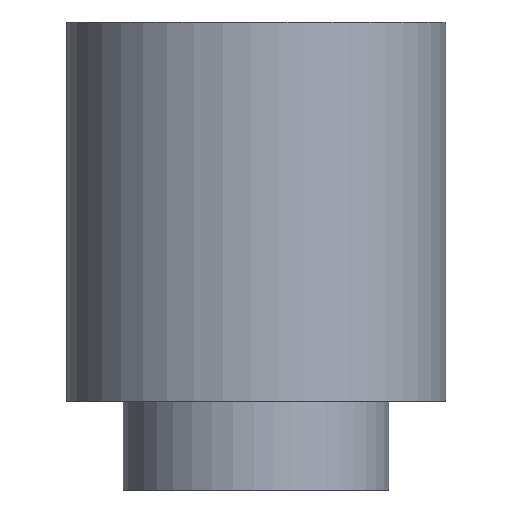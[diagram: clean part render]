
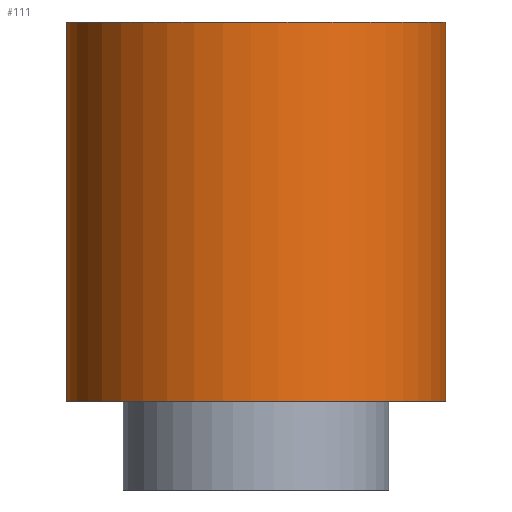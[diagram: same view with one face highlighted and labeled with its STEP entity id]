
A CAD part, front view. The second image highlights one B-rep face of the part: STEP entity #111.
In plain terms, the highlighted free-form (B-spline) face has degree [2, 1] with [7, 2] control points.
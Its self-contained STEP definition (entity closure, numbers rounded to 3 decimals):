
#92 = EDGE_CURVE('',#93,#93,#95,.T.);
#93 = VERTEX_POINT('',#94);
#94 = CARTESIAN_POINT('',(-3.,0.,0.));
#95 = ( BOUNDED_CURVE() B_SPLINE_CURVE(2,(#96,#97,#98,#99,#100,#101,#102
),.UNSPECIFIED.,.T.,.F.) B_SPLINE_CURVE_WITH_KNOTS((1,2,2,2,2,1),(
    -2.094,0.,2.094,4.189,6.283,
8.378),.UNSPECIFIED.) CURVE() GEOMETRIC_REPRESENTATION_ITEM() 
RATIONAL_B_SPLINE_CURVE((1.,0.5,1.,0.5,1.,0.5,1.)) REPRESENTATION_ITEM(
  '') );
#96 = CARTESIAN_POINT('',(-3.,0.,0.));
#97 = CARTESIAN_POINT('',(-3.,5.196,0.));
#98 = CARTESIAN_POINT('',(1.5,2.598,0.));
#99 = CARTESIAN_POINT('',(6.,0.,0.));
#100 = CARTESIAN_POINT('',(1.5,-2.598,0.));
#101 = CARTESIAN_POINT('',(-3.,-5.196,0.));
#102 = CARTESIAN_POINT('',(-3.,0.,0.));
#111 = ADVANCED_FACE('',(#112),#133,.T.);
#112 = FACE_BOUND('',#113,.T.);
#113 = EDGE_LOOP('',(#114,#126,#131,#132));
#114 = ORIENTED_EDGE('',*,*,#115,.T.);
#115 = EDGE_CURVE('',#116,#116,#118,.T.);
#116 = VERTEX_POINT('',#117);
#117 = CARTESIAN_POINT('',(-3.,0.,6.));
#118 = ( BOUNDED_CURVE() B_SPLINE_CURVE(2,(#119,#120,#121,#122,#123,#124
,#125),.UNSPECIFIED.,.T.,.F.) B_SPLINE_CURVE_WITH_KNOTS((1,2,2,2,2,1),(
    -2.094,0.,2.094,4.189,6.283,
8.378),.UNSPECIFIED.) CURVE() GEOMETRIC_REPRESENTATION_ITEM() 
RATIONAL_B_SPLINE_CURVE((1.,0.5,1.,0.5,1.,0.5,1.)) REPRESENTATION_ITEM(
  '') );
#119 = CARTESIAN_POINT('',(-3.,0.,6.));
#120 = CARTESIAN_POINT('',(-3.,5.196,6.));
#121 = CARTESIAN_POINT('',(1.5,2.598,6.));
#122 = CARTESIAN_POINT('',(6.,0.,6.));
#123 = CARTESIAN_POINT('',(1.5,-2.598,6.));
#124 = CARTESIAN_POINT('',(-3.,-5.196,6.));
#125 = CARTESIAN_POINT('',(-3.,0.,6.));
#126 = ORIENTED_EDGE('',*,*,#127,.F.);
#127 = EDGE_CURVE('',#93,#116,#128,.T.);
#128 = B_SPLINE_CURVE_WITH_KNOTS('',1,(#129,#130),.UNSPECIFIED.,.F.,.F.,
  (2,2),(1.4,7.4),.PIECEWISE_BEZIER_KNOTS.);
#129 = CARTESIAN_POINT('',(-3.,0.,0.));
#130 = CARTESIAN_POINT('',(-3.,0.,6.));
#131 = ORIENTED_EDGE('',*,*,#92,.F.);
#132 = ORIENTED_EDGE('',*,*,#127,.T.);
#133 = ( BOUNDED_SURFACE() B_SPLINE_SURFACE(2,1,(
    (#134,#135)
    ,(#136,#137)
    ,(#138,#139)
    ,(#140,#141)
    ,(#142,#143)
    ,(#144,#145)
,(#146,#147
    )),.UNSPECIFIED.,.T.,.F.,.F.) B_SPLINE_SURFACE_WITH_KNOTS((1,2,2,2,2
    ,1),(2,2),(-2.094,0.,2.094,4.189,
    6.283,8.378),(1.4,7.4),.UNSPECIFIED.) 
GEOMETRIC_REPRESENTATION_ITEM() RATIONAL_B_SPLINE_SURFACE((
    (1.,1.)
    ,(0.5,0.5)
    ,(1.,1.)
    ,(0.5,0.5)
    ,(1.,1.)
    ,(0.5,0.5)
,(1.,1.))) REPRESENTATION_ITEM('') SURFACE() );
#134 = CARTESIAN_POINT('',(-3.,0.,0.));
#135 = CARTESIAN_POINT('',(-3.,0.,6.));
#136 = CARTESIAN_POINT('',(-3.,-5.196,0.));
#137 = CARTESIAN_POINT('',(-3.,-5.196,6.));
#138 = CARTESIAN_POINT('',(1.5,-2.598,0.));
#139 = CARTESIAN_POINT('',(1.5,-2.598,6.));
#140 = CARTESIAN_POINT('',(6.,0.,0.));
#141 = CARTESIAN_POINT('',(6.,0.,6.));
#142 = CARTESIAN_POINT('',(1.5,2.598,0.));
#143 = CARTESIAN_POINT('',(1.5,2.598,6.));
#144 = CARTESIAN_POINT('',(-3.,5.196,0.));
#145 = CARTESIAN_POINT('',(-3.,5.196,6.));
#146 = CARTESIAN_POINT('',(-3.,0.,0.));
#147 = CARTESIAN_POINT('',(-3.,0.,6.));
